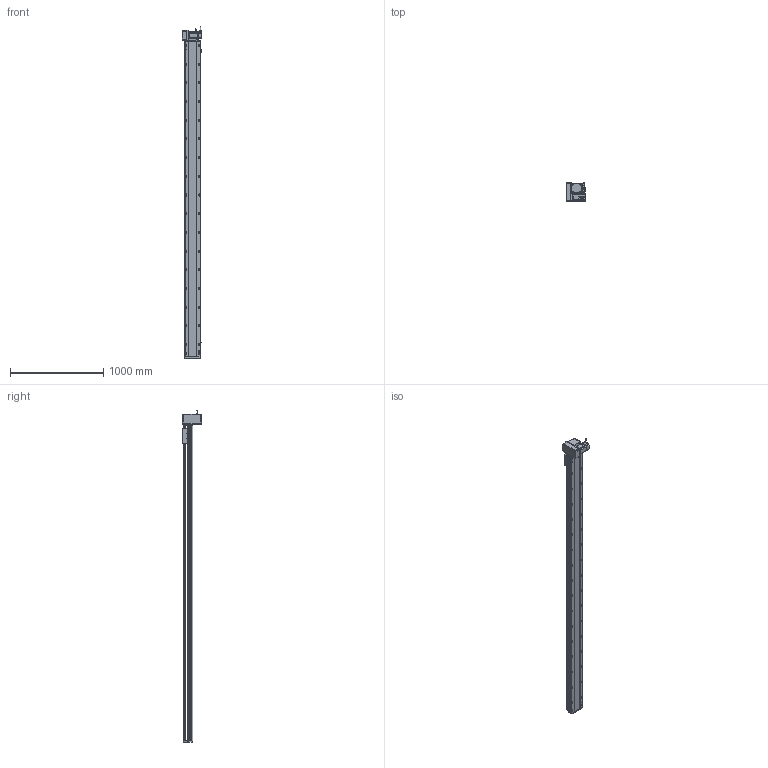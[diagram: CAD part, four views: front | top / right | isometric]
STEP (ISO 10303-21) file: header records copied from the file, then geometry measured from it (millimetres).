
FILE_DESCRIPTION (( 'STEP AP214' ), '1' );
FILE_NAME ('RTB17S-XX-3100-LM-M75-C4.STEP', '2025-12-12T00:50:19', ( '' ), ( '' ), 'SwSTEP 2.0', 'SolidWorks 2018', '' );
FILE_SCHEMA (( 'AUTOMOTIVE_DESIGN' ));
Length unit declared in the file: millimetre
Products named in the file (15): RTB17S-L-004-賑釱^RTB17S-賑釱_RTB17S-XX-XX-LM-M75-C4; RTB17S-L-001-耜醱啣^RTB17S-XX-XX-LM-M75-C4; RTB22S-GY-017P^RTB17S-LM-々湍釱蚾饜-750W_RTB17S-XX-XX-LM-M75-C4; RTB17S-L-007奻裔^RTB17S-XX-XX-LM-M75-C4; 750W萇儂^RTB17S-XX-XX-LM-M75-C4; RTB17S-賑釱^RTB17S-XX-XX-LM-M75-C4; RTB22S-GY-008-M75--萇儂啣^RTB17S-LM-々湍釱蚾饜-750W_RTB17S-XX-XX-LM-M75-C4; RTB17S-LM-々湍釱蚾饜-750W^RTB17S-XX-XX-LM-M75-C4; RTB17S-L-014-T20-P75--々湍釱^RTB17S-LM-々湍釱蚾饜-750W_RTB17S-XX-XX-LM-M75-C4; RTH13-BL-012覜茼え俋离^RTB17S-賑釱_RTB17S-XX-XX-LM-M75-C4; EE672^RTB17S-XX-XX-LM-M75-C4; RTB17S-XX-3100-LM-M75-C4; RTB17-R-011菁釱^RTB17S-XX-XX-LM-M75-C4; RTB22S-GY-018P^RTB17S-LM-々湍釱蚾饜-750W_RTB17S-XX-XX-LM-M75-C4; RTB22S-GY-005P^RTB17S-LM-々湍釱蚾饜-750W_RTB17S-XX-XX-LM-M75-C4
Assembly tree (17 placements, depth 3):
  RTB17S-XX-3100-LM-M75-C4
    RTB17-R-011菁釱^RTB17S-XX-XX-LM-M75-C4
    EE672^RTB17S-XX-XX-LM-M75-C4  x3
    RTB17S-L-001-耜醱啣^RTB17S-XX-XX-LM-M75-C4
    RTB17S-賑釱^RTB17S-XX-XX-LM-M75-C4
      RTB17S-L-004-賑釱^RTB17S-賑釱_RTB17S-XX-XX-LM-M75-C4
      RTH13-BL-012覜茼え俋离^RTB17S-賑釱_RTB17S-XX-XX-LM-M75-C4
    RTB17S-L-007奻裔^RTB17S-XX-XX-LM-M75-C4
    750W萇儂^RTB17S-XX-XX-LM-M75-C4
    RTB17S-LM-々湍釱蚾饜-750W^RTB17S-XX-XX-LM-M75-C4
      RTB17S-L-014-T20-P75--々湍釱^RTB17S-LM-々湍釱蚾饜-750W_RTB17S-XX-XX-LM-M75-C4
      RTB22S-GY-005P^RTB17S-LM-々湍釱蚾饜-750W_RTB17S-XX-XX-LM-M75-C4
      RTB22S-GY-017P^RTB17S-LM-々湍釱蚾饜-750W_RTB17S-XX-XX-LM-M75-C4  x2
      RTB22S-GY-008-M75--萇儂啣^RTB17S-LM-々湍釱蚾饜-750W_RTB17S-XX-XX-LM-M75-C4
      RTB22S-GY-018P^RTB17S-LM-々湍釱蚾饜-750W_RTB17S-XX-XX-LM-M75-C4
Bounding box: 210.4 x 200 x 3552.2 mm (x, y, z)
Volume: 25325951.5 mm3; surface area: 4651309.7 mm2
Topology: 17 solids, 17 shells, 2265 faces, 6376 edges, 4130 vertices
Faces by surface type: plane 992, cylinder 857, bspline 294, cone 110, sphere 8, torus 4
Entity records: 66550 total; most frequent: CARTESIAN_POINT 19840, ORIENTED_EDGE 9596, DIRECTION 8852, EDGE_CURVE 4798, AXIS2_PLACEMENT_3D 3150, VERTEX_POINT 3134, LINE 2552, VECTOR 2552
